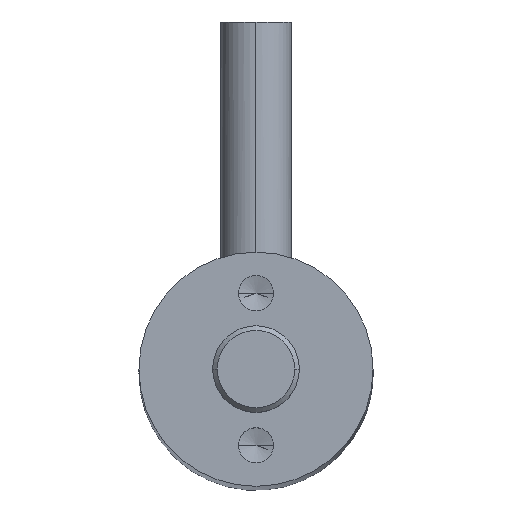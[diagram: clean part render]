
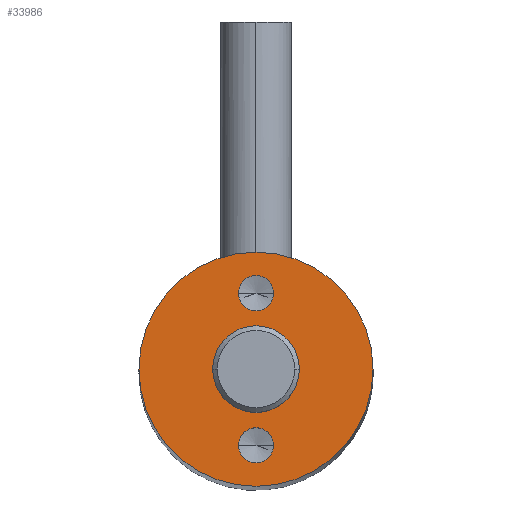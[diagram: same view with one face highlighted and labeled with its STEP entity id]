
A CAD part, top view. The second image highlights one B-rep face of the part: STEP entity #33986.
In plain terms, the highlighted planar face has unit normal (0, 0, 1).
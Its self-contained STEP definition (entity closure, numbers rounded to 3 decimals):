
#820 = CIRCLE ( 'NONE', #27230, 0.75 ) ;
#1121 = VERTEX_POINT ( 'NONE', #27229 ) ;
#1288 = VERTEX_POINT ( 'NONE', #9606 ) ;
#1402 = DIRECTION ( 'NONE',  ( 1., 0., 0. ) ) ;
#3098 = EDGE_CURVE ( 'NONE', #6084, #10867, #14081, .T. ) ;
#3882 = AXIS2_PLACEMENT_3D ( 'NONE', #27237, #21414, #25301 ) ;
#4013 = DIRECTION ( 'NONE',  ( 1., 0., 0. ) ) ;
#5501 = CIRCLE ( 'NONE', #28682, 0.75 ) ;
#5558 = DIRECTION ( 'NONE',  ( 1., 0., 0. ) ) ;
#5717 = CARTESIAN_POINT ( 'NONE',  ( 0., 0., 100.6 ) ) ;
#6084 = VERTEX_POINT ( 'NONE', #11589 ) ;
#6308 = CIRCLE ( 'NONE', #27052, 5. ) ;
#6553 = EDGE_CURVE ( 'NONE', #16686, #1288, #21894, .T. ) ;
#9606 = CARTESIAN_POINT ( 'NONE',  ( 0.75, -3.25, 100.6 ) ) ;
#9621 = AXIS2_PLACEMENT_3D ( 'NONE', #5717, #38130, #37874 ) ;
#10128 = DIRECTION ( 'NONE',  ( 0., 0., 1. ) ) ;
#10381 = CARTESIAN_POINT ( 'NONE',  ( 0., -3.25, 100.6 ) ) ;
#10867 = VERTEX_POINT ( 'NONE', #17611 ) ;
#11589 = CARTESIAN_POINT ( 'NONE',  ( 5., 0., 100.6 ) ) ;
#11972 = EDGE_CURVE ( 'NONE', #22372, #30268, #16766, .T. ) ;
#12516 = ORIENTED_EDGE ( 'NONE', *, *, #29233, .F. ) ;
#12791 = FACE_BOUND ( 'NONE', #29909, .T. ) ;
#13381 = CIRCLE ( 'NONE', #3882, 0.75 ) ;
#13872 = EDGE_LOOP ( 'NONE', ( #30610, #28305 ) ) ;
#14081 = CIRCLE ( 'NONE', #21512, 5. ) ;
#15889 = DIRECTION ( 'NONE',  ( 1., 0., 0. ) ) ;
#16469 = CARTESIAN_POINT ( 'NONE',  ( -1.85, 0., 100.6 ) ) ;
#16686 = VERTEX_POINT ( 'NONE', #22130 ) ;
#16766 = CIRCLE ( 'NONE', #27288, 1.85 ) ;
#17611 = CARTESIAN_POINT ( 'NONE',  ( -5., 0., 100.6 ) ) ;
#18119 = ORIENTED_EDGE ( 'NONE', *, *, #33667, .T. ) ;
#18815 = DIRECTION ( 'NONE',  ( 0., 0., 1. ) ) ;
#18959 = CARTESIAN_POINT ( 'NONE',  ( 0.75, 3.25, 100.6 ) ) ;
#19505 = ORIENTED_EDGE ( 'NONE', *, *, #11972, .F. ) ;
#20167 = EDGE_CURVE ( 'NONE', #38437, #1121, #5501, .T. ) ;
#20390 = CARTESIAN_POINT ( 'NONE',  ( 1.85, 0., 100.6 ) ) ;
#21414 = DIRECTION ( 'NONE',  ( 0., 0., 1. ) ) ;
#21512 = AXIS2_PLACEMENT_3D ( 'NONE', #30112, #18815, #4013 ) ;
#21894 = CIRCLE ( 'NONE', #34461, 0.75 ) ;
#22130 = CARTESIAN_POINT ( 'NONE',  ( -0.75, -3.25, 100.6 ) ) ;
#22313 = ORIENTED_EDGE ( 'NONE', *, *, #3098, .T. ) ;
#22372 = VERTEX_POINT ( 'NONE', #20390 ) ;
#22404 = DIRECTION ( 'NONE',  ( 0., 0., 1. ) ) ;
#22555 = FACE_BOUND ( 'NONE', #13872, .T. ) ;
#22578 = CARTESIAN_POINT ( 'NONE',  ( 0., 0., 100.6 ) ) ;
#23263 = EDGE_CURVE ( 'NONE', #1288, #16686, #820, .T. ) ;
#23353 = PLANE ( 'NONE',  #36992 ) ;
#23487 = CARTESIAN_POINT ( 'NONE',  ( 0., 0., 100.6 ) ) ;
#23840 = EDGE_CURVE ( 'NONE', #1121, #38437, #13381, .T. ) ;
#24449 = DIRECTION ( 'NONE',  ( 0., 0., 1. ) ) ;
#25024 = ORIENTED_EDGE ( 'NONE', *, *, #23840, .F. ) ;
#25301 = DIRECTION ( 'NONE',  ( 1., 0., 0. ) ) ;
#25514 = DIRECTION ( 'NONE',  ( 1., 0., 0. ) ) ;
#25767 = CARTESIAN_POINT ( 'NONE',  ( 0., 3.25, 100.6 ) ) ;
#26583 = DIRECTION ( 'NONE',  ( 0., 0., 1. ) ) ;
#26971 = ORIENTED_EDGE ( 'NONE', *, *, #20167, .F. ) ;
#27052 = AXIS2_PLACEMENT_3D ( 'NONE', #33783, #24449, #15889 ) ;
#27229 = CARTESIAN_POINT ( 'NONE',  ( -0.75, 3.25, 100.6 ) ) ;
#27230 = AXIS2_PLACEMENT_3D ( 'NONE', #10381, #10128, #1402 ) ;
#27237 = CARTESIAN_POINT ( 'NONE',  ( 0., 3.25, 100.6 ) ) ;
#27288 = AXIS2_PLACEMENT_3D ( 'NONE', #22578, #31541, #31418 ) ;
#27828 = EDGE_LOOP ( 'NONE', ( #18119, #22313 ) ) ;
#28305 = ORIENTED_EDGE ( 'NONE', *, *, #6553, .F. ) ;
#28682 = AXIS2_PLACEMENT_3D ( 'NONE', #25767, #22404, #25514 ) ;
#29049 = FACE_OUTER_BOUND ( 'NONE', #27828, .T. ) ;
#29233 = EDGE_CURVE ( 'NONE', #30268, #22372, #35582, .T. ) ;
#29709 = DIRECTION ( 'NONE',  ( 1., 0., 0. ) ) ;
#29720 = DIRECTION ( 'NONE',  ( 0., 0., 1. ) ) ;
#29909 = EDGE_LOOP ( 'NONE', ( #12516, #19505 ) ) ;
#30112 = CARTESIAN_POINT ( 'NONE',  ( 0., 0., 100.6 ) ) ;
#30268 = VERTEX_POINT ( 'NONE', #16469 ) ;
#30610 = ORIENTED_EDGE ( 'NONE', *, *, #23263, .F. ) ;
#31418 = DIRECTION ( 'NONE',  ( 1., 0., 0. ) ) ;
#31541 = DIRECTION ( 'NONE',  ( 0., 0., 1. ) ) ;
#32718 = CARTESIAN_POINT ( 'NONE',  ( 0., -3.25, 100.6 ) ) ;
#33667 = EDGE_CURVE ( 'NONE', #10867, #6084, #6308, .T. ) ;
#33783 = CARTESIAN_POINT ( 'NONE',  ( 0., 0., 100.6 ) ) ;
#33986 = ADVANCED_FACE ( 'NONE', ( #22555, #36945, #12791, #29049 ), #23353, .T. ) ;
#34461 = AXIS2_PLACEMENT_3D ( 'NONE', #32718, #26583, #29709 ) ;
#35582 = CIRCLE ( 'NONE', #9621, 1.85 ) ;
#36945 = FACE_BOUND ( 'NONE', #37467, .T. ) ;
#36992 = AXIS2_PLACEMENT_3D ( 'NONE', #23487, #29720, #5558 ) ;
#37467 = EDGE_LOOP ( 'NONE', ( #26971, #25024 ) ) ;
#37874 = DIRECTION ( 'NONE',  ( 1., 0., 0. ) ) ;
#38130 = DIRECTION ( 'NONE',  ( 0., 0., 1. ) ) ;
#38437 = VERTEX_POINT ( 'NONE', #18959 ) ;
